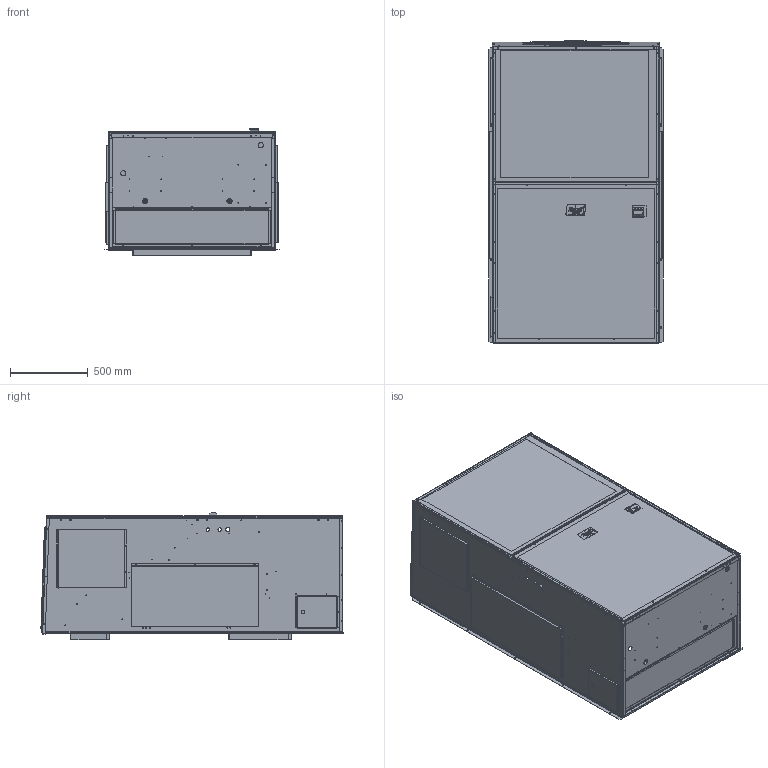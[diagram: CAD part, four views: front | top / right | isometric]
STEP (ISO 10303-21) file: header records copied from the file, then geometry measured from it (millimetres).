
FILE_DESCRIPTION (( 'STEP AP214' ), '1' );
FILE_NAME ('STEP_2600.STEP', '2020-01-21T15:13:47', ( '' ), ( '' ), 'SwSTEP 2.0', 'SolidWorks 2019', '' );
FILE_SCHEMA (( 'AUTOMOTIVE_DESIGN' ));
Length unit declared in the file: inch
Products named in the file (19): 152-704_1.STEP.STEP; STEP_2600; 8615-092, boot_1.STEP.STEP; 126-538_1.STEP.STEP; 100-1002_1.STEP.STEP; 132-288_1.STEP.STEP; 106-370_1.STEP.STEP; 100-1001_1.STEP.STEP; 118-119_1.STEP.STEP; 7051-091_1.STEP.STEP; 110-035_1.STEP.STEP; 108-392_1.STEP.STEP; 118-117_1.STEP.STEP; 142-211_1.STEP.STEP; 5021-2375_1.STEP.STEP; 5252-033_1.STEP.STEP; 142-213_1.STEP.STEP; 110-268_1.STEP.STEP; 142-210_1.STEP.STEP
Assembly tree (21 placements, depth 2):
  STEP_2600
    118-119_1.STEP.STEP
    126-538_1.STEP.STEP
    110-035_1.STEP.STEP  x2
    8615-092, boot_1.STEP.STEP
    132-288_1.STEP.STEP
    5021-2375_1.STEP.STEP
    110-268_1.STEP.STEP  x2
    108-392_1.STEP.STEP
    142-210_1.STEP.STEP  x2
    5252-033_1.STEP.STEP
    106-370_1.STEP.STEP
    118-117_1.STEP.STEP
    142-213_1.STEP.STEP
    7051-091_1.STEP.STEP
    152-704_1.STEP.STEP
    142-211_1.STEP.STEP
    100-1001_1.STEP.STEP
    100-1002_1.STEP.STEP
Bounding box: 1118.07 x 1938.28 x 818.44 mm (x, y, z)
Volume: 303092.1 mm3; surface area: 21108217.8 mm2
Topology: 9 solids, 29 shells, 2258 faces, 6029 edges, 3880 vertices
Faces by surface type: cylinder 978, plane 881, bspline 259, torus 97, sphere 39, cone 4
Entity records: 138852 total; most frequent: CARTESIAN_POINT 95893, ORIENTED_EDGE 11402, EDGE_CURVE 5701, B_SPLINE_CURVE_WITH_KNOTS 5550, DIRECTION 3812, VERTEX_POINT 3684, EDGE_LOOP 2957, ADVANCED_FACE 2132
